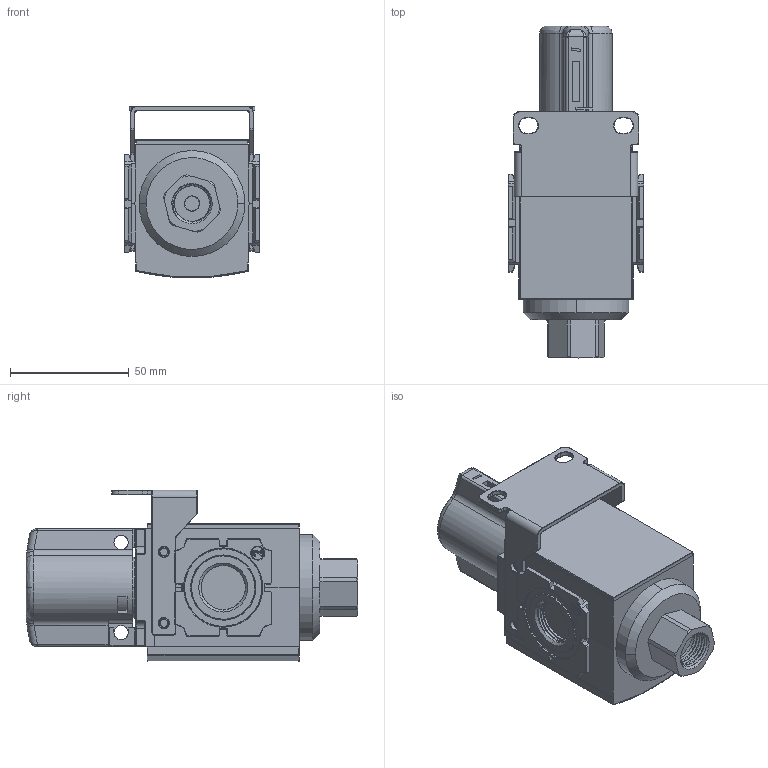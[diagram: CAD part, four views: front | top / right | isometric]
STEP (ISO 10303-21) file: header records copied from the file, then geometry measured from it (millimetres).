
FILE_DESCRIPTION (( 'STEP AP203' ), '1' );
FILE_NAME ('EAS3200-04.STEP', '2025-04-10T06:52:46', ( 'E.mc' ), ( 'E.mc' ), 'SwSTEP 2.0', 'SolidWorks 2017', '' );
FILE_SCHEMA (( 'CONFIG_CONTROL_DESIGN' ));
Length unit declared in the file: millimetre
Products named in the file (1): EAS3200-04
Bounding box: 57 x 139.7 x 72.27 mm (x, y, z)
Volume: 243939.1 mm3; surface area: 52642.1 mm2
Topology: 2 solids, 17 shells, 1137 faces, 2913 edges, 1814 vertices
Faces by surface type: cylinder 429, plane 420, bspline 250, cone 38
Entity records: 51350 total; most frequent: CARTESIAN_POINT 26395, ORIENTED_EDGE 5758, DIRECTION 4341, EDGE_CURVE 2879, VERTEX_POINT 1814, AXIS2_PLACEMENT_3D 1448, VECTOR 1445, LINE 1445
